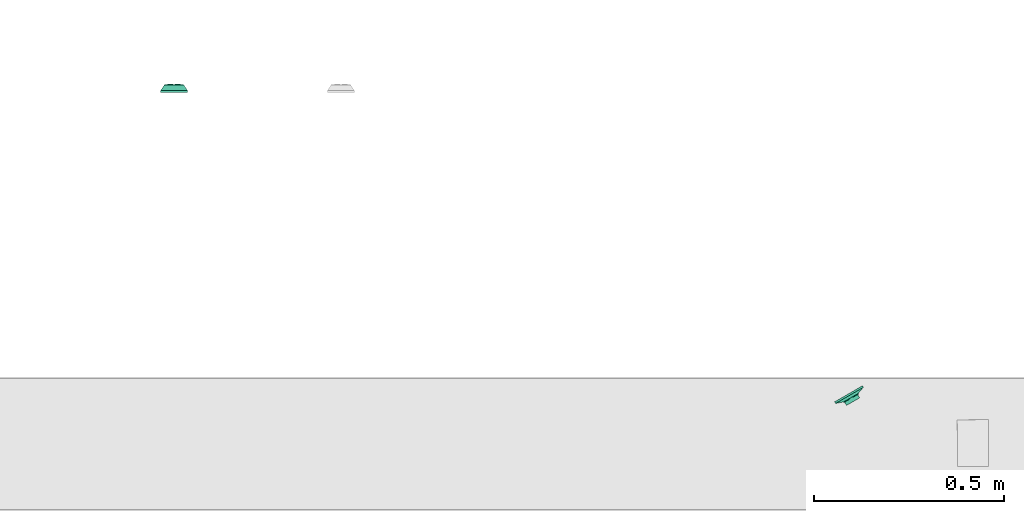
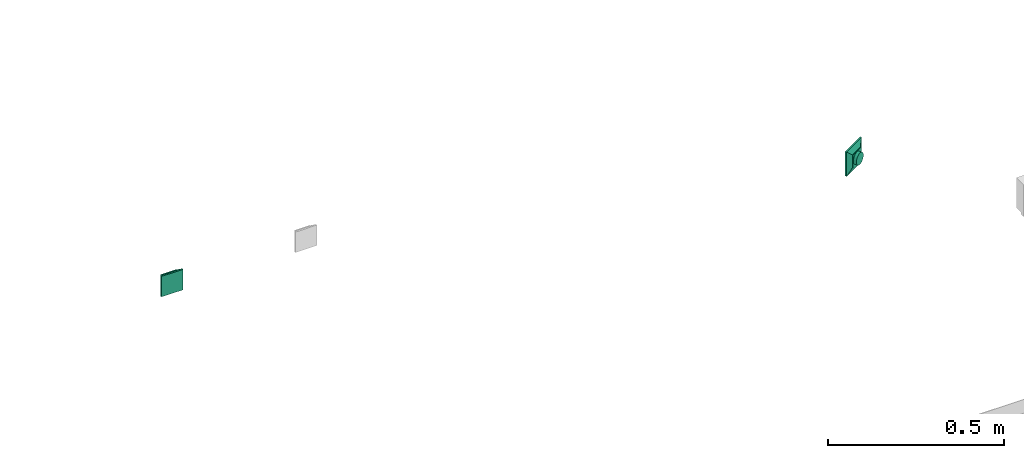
# One storey, part 10 of 24: 1 flow controller, 1 flow terminal.
"""IFC2X3 building model written with IfcOpenShell, lengths in millimetres."""

from ifc_helpers import new_model, entity, si_unit, converted_unit, derived_unit, direction, frame, origin_with_axes, place, context, subcontext, project, spatial, open_shell, surface_model, source, transform, mapped, type_object, element, save


model = new_model("IFC2X3")

# Units and contexts
model_context = context("Model", 3, precision=0.01, world=frame((0.0, 4.29681676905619e-09, 0.0)), true_north=direction((4.01073788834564e-13, 1.0)))
plan_context = context("Plan", 3, precision=0.01, world=frame((0.0, 4.29681676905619e-09, 0.0)), true_north=direction((4.01073788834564e-13, 1.0)))
body_context = subcontext(model_context, "Body", "Model", "MODEL_VIEW")
ifc_project = project(units=[converted_unit("PLANEANGLEUNIT", "DEGREE", entity("IfcPositiveLengthMeasure", 0.0174532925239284), si_unit("PLANEANGLEUNIT", "RADIAN"), dimensions=[0, 0, 0, 0, 0, 0, 0]), si_unit("AREAUNIT", "SQUARE_METRE"), si_unit("LENGTHUNIT", "METRE", prefix="MILLI"), si_unit("MASSUNIT", "GRAM", prefix="KILO"), si_unit("POWERUNIT", "WATT"), si_unit("PRESSUREUNIT", "PASCAL"), si_unit("FORCEUNIT", "NEWTON", prefix="KILO"), si_unit("ELECTRICVOLTAGEUNIT", "VOLT"), si_unit("ELECTRICCURRENTUNIT", "AMPERE"), si_unit("THERMODYNAMICTEMPERATUREUNIT", "DEGREE_CELSIUS"), si_unit("TIMEUNIT", "SECOND"), si_unit("VOLUMEUNIT", "CUBIC_METRE"), derived_unit("LINEARVELOCITYUNIT", [(si_unit("LENGTHUNIT", "METRE"), 1), (si_unit("TIMEUNIT", "SECOND"), -1)]), derived_unit("VOLUMETRICFLOWRATEUNIT", [(si_unit("VOLUMEUNIT", "CUBIC_METRE"), 1), (si_unit("TIMEUNIT", "SECOND"), -1)]), derived_unit("THERMALTRANSMITTANCEUNIT", [(si_unit("POWERUNIT", "WATT"), 1), (si_unit("THERMODYNAMICTEMPERATUREUNIT", "KELVIN"), -1), (si_unit("AREAUNIT", "SQUARE_METRE"), -1)]), derived_unit("SOUNDPRESSUREUNIT", [(si_unit("PRESSUREUNIT", "PASCAL"), 1)])], contexts=[model_context, plan_context])

# Site, building, storey
site_placement = place(None, frame((0.0, -4.29681676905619e-09, 0.0), z_axis=(0.0, 0.0, 1.0), x_axis=(1.0, 0.0, 0.0)))
site = spatial("IfcSite", under=ifc_project, at=site_placement, Name="ENGM", CompositionType="ELEMENT")
building_placement = place(site_placement, frame((0.0, 4.29681676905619e-09, 0.0), z_axis=(0.0, 0.0, 1.0), x_axis=(1.0, 0.0, 0.0)))
building = spatial("IfcBuilding", under=site, at=building_placement, Name="TH", CompositionType="ELEMENT")
storey_placement = place(building_placement, frame((0.0, 0.0, 210200.0), z_axis=(0.0, 0.0, 1.0), x_axis=(1.0, 0.0, 0.0)))
storey = spatial("IfcBuildingStorey", under=building, at=storey_placement, Name="Nivå F - 0,7 m", CompositionType="ELEMENT", Elevation=210200.0)

# Flow controller
switching_device_type = type_object("IfcSwitchingDeviceType", Name="Light dimmer", PredefinedType="NOTDEFINED")
shared_shape_1 = source(origin_with_axes(), body_context, "Body", "SurfaceModel", [
    surface_model("IfcShellBasedSurfaceModel", [(42.5, 0.0, 42.5), (-42.5, 0.0, 42.5), (-42.5, 0.0, -42.5), (42.5, 0.0, -42.5), (-42.5, 5.0, 42.5), (42.5, 5.0, 42.5), (42.5, 5.0, -42.5), (-42.5, 5.0, -42.5), (-5.17638, 24.0, -19.31852), (-10.0, 24.0, -17.32051), (-14.14214, 24.0, -14.14214), (-17.32051, 24.0, -10.0), (-19.31852, 24.0, -5.17638), (-20.0, 24.0, 0.0), (20.0, 24.0, 0.0), (5.17638, 24.0, -19.31852), (19.31852, 24.0, -5.17638), (10.0, 24.0, -17.32051), (0.0, 24.0, -20.0), (14.14214, 24.0, -14.14214), (17.32051, 24.0, -10.0), (-19.31852, 24.0, 5.17638), (-17.32051, 24.0, 10.0), (-14.14214, 24.0, 14.14214), (-10.0, 24.0, 17.32051), (-5.17638, 24.0, 19.31852), (0.0, 24.0, 20.0), (19.31852, 24.0, 5.17638), (14.14214, 24.0, 14.14214), (17.32051, 24.0, 10.0), (10.0, 24.0, 17.32051), (5.17638, 24.0, 19.31852), (0.0, 14.0, 20.0), (-5.17638, 14.0, 19.31852), (-10.0, 14.0, 17.32051), (10.0, 14.0, 17.32051), (-14.14214, 14.0, 14.14214), (-17.32051, 14.0, 10.0), (-19.31852, 14.0, 5.17638), (19.31852, 14.0, 5.17638), (14.14214, 14.0, 14.14214), (5.17638, 14.0, 19.31852), (17.32051, 14.0, 10.0), (20.0, 14.0, 0.0), (-20.0, 14.0, 0.0), (-19.31852, 14.0, -5.17638), (-17.32051, 14.0, -10.0), (-5.17638, 14.0, -19.31852), (-14.14214, 14.0, -14.14214), (-10.0, 14.0, -17.32051), (5.17638, 14.0, -19.31852), (19.31852, 14.0, -5.17638), (14.14214, 14.0, -14.14214), (17.32051, 14.0, -10.0), (10.0, 14.0, -17.32051), (0.0, 14.0, -20.0), (22.5, 14.0, 22.5), (22.5, 14.0, -22.5), (-22.5, 14.0, -22.5), (-22.5, 14.0, 22.5), (-22.5, 12.0, 22.5), (-22.5, 12.0, -22.5), (22.5, 12.0, -22.5), (22.5, 12.0, 22.5)], [open_shell([[[0, 1, 2]], [[2, 3, 0]], [[4, 5, 6]], [[6, 7, 4]], [[1, 0, 5]], [[5, 4, 1]], [[3, 2, 7]], [[7, 6, 3]], [[8, 9, 10]], [[8, 10, 11]], [[11, 12, 13]], [[11, 13, 8]], [[14, 15, 8]], [[15, 16, 17]], [[15, 18, 8]], [[19, 16, 20]], [[16, 19, 17]], [[15, 14, 16]], [[8, 13, 21]], [[21, 22, 23]], [[21, 23, 24]], [[24, 25, 26]], [[21, 24, 14]], [[27, 24, 26]], [[27, 28, 29]], [[27, 14, 24]], [[27, 30, 28]], [[26, 30, 27]], [[26, 31, 30]], [[21, 14, 8]], [[32, 33, 34]], [[35, 32, 34]], [[36, 37, 38]], [[35, 34, 36]], [[35, 36, 38]], [[35, 39, 40]], [[35, 41, 32]], [[40, 39, 42]], [[39, 35, 43]], [[38, 43, 35]], [[38, 44, 43]], [[44, 45, 46]], [[44, 46, 47]], [[48, 49, 47]], [[48, 47, 46]], [[47, 50, 43]], [[51, 52, 53]], [[52, 51, 54]], [[51, 50, 54]], [[43, 50, 51]], [[47, 55, 50]], [[43, 44, 47]], [[51, 16, 43]], [[53, 20, 51]], [[17, 52, 54]], [[53, 52, 19]], [[15, 54, 50]], [[51, 20, 16]], [[16, 14, 43]], [[15, 17, 54]], [[19, 52, 17]], [[19, 20, 53]], [[18, 15, 50]], [[50, 55, 18]], [[47, 8, 55]], [[49, 9, 47]], [[11, 48, 46]], [[49, 48, 10]], [[12, 46, 45]], [[49, 10, 9]], [[9, 8, 47]], [[13, 12, 45]], [[11, 46, 12]], [[11, 10, 48]], [[44, 13, 45]], [[55, 8, 18]], [[38, 21, 44]], [[37, 22, 38]], [[24, 36, 34]], [[37, 36, 23]], [[25, 34, 33]], [[38, 22, 21]], [[21, 13, 44]], [[25, 24, 34]], [[23, 36, 24]], [[23, 22, 37]], [[26, 25, 33]], [[33, 32, 26]], [[41, 31, 32]], [[35, 30, 41]], [[29, 40, 42]], [[35, 40, 28]], [[27, 42, 39]], [[35, 28, 30]], [[30, 31, 41]], [[14, 27, 39]], [[29, 42, 27]], [[29, 28, 40]], [[43, 14, 39]], [[32, 31, 26]], [[56, 57, 58]], [[58, 59, 56]], [[60, 61, 62]], [[62, 63, 60]], [[58, 57, 62]], [[62, 61, 58]], [[59, 58, 61]], [[61, 60, 59]], [[56, 59, 60]], [[60, 63, 56]], [[57, 56, 63]], [[63, 62, 57]], [[63, 62, 61]], [[61, 60, 63]], [[6, 5, 4]], [[4, 7, 6]], [[62, 6, 7]], [[7, 61, 62]], [[61, 7, 60]], [[4, 60, 7]], [[60, 4, 63]], [[5, 63, 4]], [[63, 5, 6]], [[6, 62, 63]], [[0, 3, 5]], [[6, 5, 3]], [[2, 1, 7]], [[4, 7, 1]]])]),
])
flow_controller_placement = place(storey_placement, frame((906672.06926, 476750.00008, 1000.0), z_axis=(0.0, 0.0, 1.0), x_axis=(-0.86577700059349, -0.500430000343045, 0.0)))
element("IfcFlowController", 1, at=flow_controller_placement, inside=storey, type_object=switching_device_type, Name="Light dimmer", context=body_context, shape_type="MappedRepresentation", body=[
    mapped(shared_shape_1, transform((0.0, 0.0, 0.0), scale=1.0)),
])

# Flow terminal
outlet_type = type_object("IfcOutletType", Name="Datauttak dobbel Vegg - IKT", PredefinedType="COMMUNICATIONSOUTLET")
shared_shape_2 = source(origin_with_axes(), body_context, "Body", "SurfaceModel", [
    surface_model("IfcShellBasedSurfaceModel", [(35.5, 5.05547, 35.5832), (25.5, 20.05547, 25.5832), (-35.5, 5.05547, 35.5832), (-25.5, 20.05547, 25.5832), (-35.5, 4.94453, 35.41679), (-25.5, 19.94453, 25.41679), (25.5, 19.94453, 25.41679), (35.5, 4.94453, 35.41679), (35.5, 4.94453, -35.41679), (25.5, 19.94453, -25.41679), (-35.5, 4.94453, -35.41679), (-25.5, 19.94453, -25.41679), (-35.5, 5.05547, -35.5832), (-25.5, 20.05547, -25.5832), (25.5, 20.05547, -25.5832), (35.5, 5.05547, -35.5832), (-25.5832, 20.05547, -25.5), (-35.5832, 5.05547, -35.5), (-35.5832, 5.05547, 35.5), (-25.5832, 20.05547, 25.5), (-25.41679, 19.94453, 25.5), (-35.41679, 4.94453, 35.5), (-25.41679, 19.94453, -25.5), (-35.41679, 4.94453, -35.5), (25.41679, 19.94453, -25.5), (35.41679, 4.94453, -35.5), (35.41679, 4.94453, 35.5), (25.41679, 19.94453, 25.5), (25.5832, 20.05547, 25.5), (35.5832, 5.05547, 35.5), (25.5832, 20.05547, -25.5), (35.5832, 5.05547, -35.5), (35.4, 5.0, -35.5), (35.4, 0.0, -35.5), (35.4, 0.0, 35.5), (35.4, 5.0, 35.5), (35.6, 5.0, 35.5), (35.6, 0.0, 35.5), (35.6, 0.0, -35.5), (35.6, 5.0, -35.5), (-35.5, 0.0, -35.6), (-35.5, 5.0, -35.6), (35.5, 5.0, -35.6), (35.5, 0.0, -35.6), (35.5, 0.0, -35.4), (35.5, 5.0, -35.4), (-35.5, 5.0, -35.4), (-35.5, 0.0, -35.4), (-35.6, 5.0, -35.5), (-35.6, 0.0, -35.5), (-35.6, 0.0, 35.5), (-35.6, 5.0, 35.5), (-35.4, 5.0, 35.5), (-35.4, 0.0, 35.5), (-35.4, 0.0, -35.5), (-35.4, 5.0, -35.5), (-35.5, -0.1, -35.5), (35.5, -0.1, -35.5), (35.5, -0.1, 35.5), (-35.5, -0.1, 35.5), (-35.5, 0.1, 35.5), (35.5, 0.1, 35.5), (35.5, 0.1, -35.5), (-35.5, 0.1, -35.5), (-35.5, 0.0, 35.4), (-35.5, 5.0, 35.4), (35.5, 5.0, 35.4), (35.5, 0.0, 35.4), (35.5, 0.0, 35.6), (35.5, 5.0, 35.6), (-35.5, 5.0, 35.6), (-35.5, 0.0, 35.6), (-25.5, 19.9, -25.5), (25.5, 19.9, -25.5), (25.5, 19.9, 25.5), (-25.5, 19.9, 25.5), (-25.5, 20.1, 25.5), (25.5, 20.1, 25.5), (25.5, 20.1, -25.5), (-25.5, 20.1, -25.5), (-17.5, 21.91, -6.5), (-2.5, 21.91, -6.5), (-17.5, 21.91, 8.5), (-2.5, 21.91, 8.5), (-17.5, 22.11, 8.5), (-2.5, 22.11, 8.5), (-17.5, 22.11, -6.5), (-2.5, 22.11, -6.5), (2.5, 21.91, -6.5), (17.5, 21.91, -6.5), (17.5, 21.91, 8.5), (2.5, 21.91, 8.5), (2.5, 22.11, 8.5), (17.5, 22.11, 8.5), (2.5, 22.11, -6.5), (17.5, 22.11, -6.5), (-25.5, 22.0, 25.5), (-25.5, 20.0, 25.5), (25.5, 20.0, 25.5), (25.5, 22.0, 25.5), (25.5, 22.0, 20.5), (25.5, 20.0, 20.5), (-25.5, 20.0, 20.5), (-25.5, 22.0, 20.5), (-25.5, 22.0, 10.5), (-25.5, 20.0, 10.5), (25.5, 20.0, 10.5), (25.5, 22.0, 10.5), (25.5, 22.0, -25.5), (25.5, 20.0, -25.5), (-25.5, 20.0, -25.5), (-25.5, 22.0, -25.5)], [open_shell([[[0, 1, 2]], [[3, 2, 1]], [[4, 5, 6]], [[6, 7, 4]], [[3, 1, 6]], [[6, 5, 3]], [[2, 3, 4]], [[5, 4, 3]], [[0, 2, 7]], [[4, 7, 2]], [[1, 0, 6]], [[7, 6, 0]], [[8, 9, 10]], [[11, 10, 9]], [[12, 13, 14]], [[14, 15, 12]], [[11, 9, 14]], [[14, 13, 11]], [[10, 11, 12]], [[13, 12, 11]], [[8, 10, 12]], [[12, 15, 8]], [[9, 8, 14]], [[15, 14, 8]], [[16, 17, 18]], [[18, 19, 16]], [[20, 21, 22]], [[23, 22, 21]], [[18, 17, 23]], [[23, 21, 18]], [[19, 18, 20]], [[21, 20, 18]], [[16, 19, 20]], [[20, 22, 16]], [[17, 16, 22]], [[22, 23, 17]], [[24, 25, 26]], [[26, 27, 24]], [[28, 29, 30]], [[31, 30, 29]], [[26, 25, 31]], [[31, 29, 26]], [[27, 26, 28]], [[29, 28, 26]], [[24, 27, 28]], [[28, 30, 24]], [[25, 24, 30]], [[30, 31, 25]], [[32, 33, 34]], [[34, 35, 32]], [[36, 37, 38]], [[38, 39, 36]], [[34, 33, 38]], [[38, 37, 34]], [[35, 34, 37]], [[37, 36, 35]], [[32, 35, 36]], [[36, 39, 32]], [[33, 32, 39]], [[39, 38, 33]], [[40, 41, 42]], [[42, 43, 40]], [[44, 45, 46]], [[46, 47, 44]], [[42, 41, 46]], [[46, 45, 42]], [[43, 42, 45]], [[45, 44, 43]], [[40, 43, 44]], [[44, 47, 40]], [[41, 40, 47]], [[47, 46, 41]], [[48, 49, 50]], [[50, 51, 48]], [[52, 53, 54]], [[54, 55, 52]], [[50, 49, 54]], [[54, 53, 50]], [[51, 50, 53]], [[53, 52, 51]], [[48, 51, 52]], [[52, 55, 48]], [[49, 48, 55]], [[55, 54, 49]], [[56, 57, 58]], [[58, 59, 56]], [[60, 61, 62]], [[62, 63, 60]], [[58, 57, 62]], [[62, 61, 58]], [[59, 58, 61]], [[61, 60, 59]], [[56, 59, 60]], [[60, 63, 56]], [[57, 56, 63]], [[63, 62, 57]], [[64, 65, 66]], [[66, 67, 64]], [[68, 69, 70]], [[70, 71, 68]], [[66, 65, 70]], [[70, 69, 66]], [[67, 66, 69]], [[69, 68, 67]], [[64, 67, 68]], [[68, 71, 64]], [[65, 64, 71]], [[71, 70, 65]], [[72, 73, 74]], [[74, 75, 72]], [[76, 77, 78]], [[78, 79, 76]], [[74, 73, 78]], [[78, 77, 74]], [[75, 74, 77]], [[77, 76, 75]], [[72, 75, 76]], [[76, 79, 72]], [[73, 72, 79]], [[79, 78, 73]], [[80, 81, 82]], [[83, 82, 81]], [[84, 85, 86]], [[87, 86, 85]], [[83, 81, 87]], [[87, 85, 83]], [[82, 83, 85]], [[85, 84, 82]], [[80, 82, 84]], [[84, 86, 80]], [[81, 80, 86]], [[86, 87, 81]], [[88, 89, 90]], [[90, 91, 88]], [[92, 93, 94]], [[95, 94, 93]], [[90, 89, 95]], [[95, 93, 90]], [[91, 90, 93]], [[93, 92, 91]], [[88, 91, 92]], [[92, 94, 88]], [[89, 88, 94]], [[94, 95, 89]], [[96, 97, 98]], [[98, 99, 96]], [[100, 101, 102]], [[102, 103, 100]], [[98, 97, 102]], [[102, 101, 98]], [[99, 98, 101]], [[101, 100, 99]], [[96, 99, 100]], [[100, 103, 96]], [[97, 96, 103]], [[103, 102, 97]], [[104, 105, 106]], [[106, 107, 104]], [[108, 109, 110]], [[110, 111, 108]], [[106, 105, 110]], [[110, 109, 106]], [[107, 106, 109]], [[109, 108, 107]], [[104, 107, 108]], [[108, 111, 104]], [[105, 104, 111]], [[111, 110, 105]]])]),
])
flow_terminal_placement = place(storey_placement, frame((904893.4277, 477544.19011, 700.0), z_axis=(0.0, 0.0, 1.0), x_axis=(1.0, 0.0, 0.0)))
element("IfcFlowTerminal", 2, at=flow_terminal_placement, inside=storey, type_object=outlet_type, Name="Datauttak dobbel Vegg - IKT", context=body_context, shape_type="MappedRepresentation", body=[
    mapped(shared_shape_2, transform((0.0, 0.0, 0.0), scale=1.0)),
])

save(model, "model.ifc")
